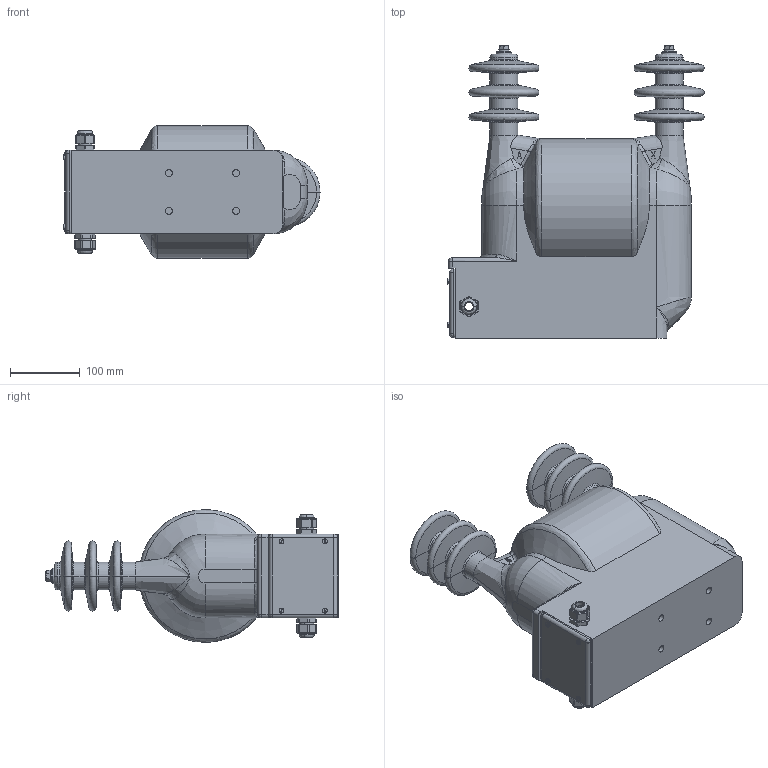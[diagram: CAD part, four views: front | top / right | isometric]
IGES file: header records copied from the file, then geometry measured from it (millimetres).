
Start section: IGES file generated from Kompas f.0 for Windows drawing by the IGES translator from Ascon Ltd., translator version IGESOUT-5.1.
Global section: file name: W:\3D_ìîäåëè\ÐÅÅÑÒÐ 3Ä ÌÎÄÅËÅÉ\212 ÍÎË-ÍÒÇ-3(6,10)-IV ÓÕË1, Ò1\ÍÎË-ÍÒÇ-3(6,10)-IV ÓÕË1, Ò1.igs; native system: Kompas( 32 bit ) for Windows; preprocessor: 1.0; author:   ; organization: Äîì; date: -17810421:121953; units: millimetre
Bounding box: 366.16 x 418 x 189.97 mm (x, y, z)
Volume: 11326601.6 mm3; surface area: 469753.4 mm2
Topology: 14 solids, 14 shells, 707 faces, 1722 edges, 1070 vertices
Faces by surface type: revolution 441, bspline 266
